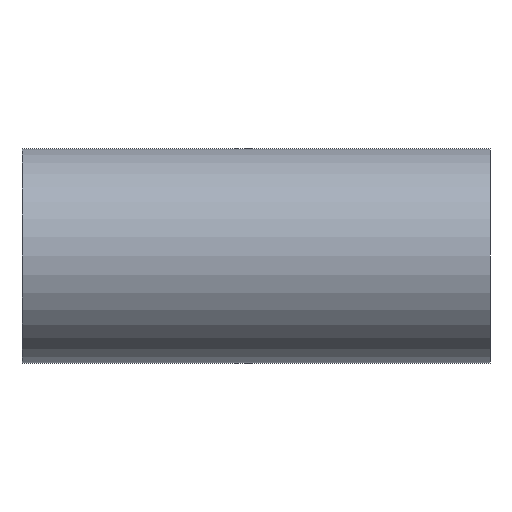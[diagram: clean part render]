
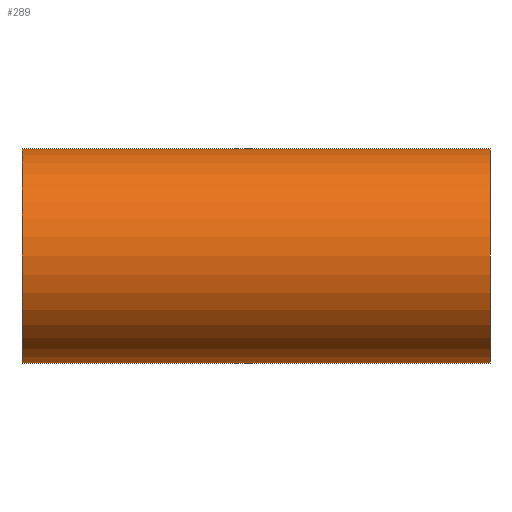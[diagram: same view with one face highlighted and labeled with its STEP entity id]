
A CAD part, front view. The second image highlights one B-rep face of the part: STEP entity #289.
In plain terms, the highlighted cylindrical face has radius 50.8 mm (diameter 101.6 mm), a partial arc.
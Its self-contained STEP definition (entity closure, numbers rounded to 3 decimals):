
#2 = VECTOR ( 'NONE', #214, 1000. ) ;
#43 = DIRECTION ( 'NONE',  ( -1., 0., 0. ) ) ;
#44 = LINE ( 'NONE', #511, #2 ) ;
#107 = LINE ( 'NONE', #123, #122 ) ;
#122 = VECTOR ( 'NONE', #162, 1000. ) ;
#123 = CARTESIAN_POINT ( 'NONE',  ( 254.384, 0., -50.8 ) ) ;
#129 = EDGE_CURVE ( 'NONE', #181, #177, #107, .T. ) ;
#162 = DIRECTION ( 'NONE',  ( -1., 0., 0. ) ) ;
#167 = EDGE_CURVE ( 'NONE', #513, #178, #44, .T. ) ;
#177 = VERTEX_POINT ( 'NONE', #204 ) ;
#178 = VERTEX_POINT ( 'NONE', #209 ) ;
#181 = VERTEX_POINT ( 'NONE', #330 ) ;
#184 = CARTESIAN_POINT ( 'NONE',  ( 254.384, 0., 0. ) ) ;
#193 = ORIENTED_EDGE ( 'NONE', *, *, #458, .T. ) ;
#204 = CARTESIAN_POINT ( 'NONE',  ( -110.7, 0., -50.8 ) ) ;
#209 = CARTESIAN_POINT ( 'NONE',  ( -110.7, 0., 50.8 ) ) ;
#210 = ORIENTED_EDGE ( 'NONE', *, *, #129, .F. ) ;
#214 = DIRECTION ( 'NONE',  ( -1., 0., 0. ) ) ;
#230 = AXIS2_PLACEMENT_3D ( 'NONE', #184, #43, #466 ) ;
#235 = ORIENTED_EDGE ( 'NONE', *, *, #167, .T. ) ;
#238 = AXIS2_PLACEMENT_3D ( 'NONE', #518, #370, #372 ) ;
#241 = CIRCLE ( 'NONE', #238, 50.8 ) ;
#246 = EDGE_CURVE ( 'NONE', #178, #177, #559, .T. ) ;
#257 = ORIENTED_EDGE ( 'NONE', *, *, #246, .T. ) ;
#281 = CARTESIAN_POINT ( 'NONE',  ( -110.7, 0., 0. ) ) ;
#289 = ADVANCED_FACE ( 'NONE', ( #504 ), #374, .T. ) ;
#326 = DIRECTION ( 'NONE',  ( 0., 0., 1. ) ) ;
#330 = CARTESIAN_POINT ( 'NONE',  ( 110.7, 0., -50.8 ) ) ;
#370 = DIRECTION ( 'NONE',  ( -1., 0., 0. ) ) ;
#372 = DIRECTION ( 'NONE',  ( 0., 0., 1. ) ) ;
#374 = CYLINDRICAL_SURFACE ( 'NONE', #230, 50.8 ) ;
#393 = EDGE_LOOP ( 'NONE', ( #210, #193, #235, #257 ) ) ;
#405 = DIRECTION ( 'NONE',  ( 1., 0., 0. ) ) ;
#458 = EDGE_CURVE ( 'NONE', #181, #513, #241, .T. ) ;
#465 = CARTESIAN_POINT ( 'NONE',  ( 110.7, 0., 50.8 ) ) ;
#466 = DIRECTION ( 'NONE',  ( 0., 0., 1. ) ) ;
#504 = FACE_OUTER_BOUND ( 'NONE', #393, .T. ) ;
#508 = AXIS2_PLACEMENT_3D ( 'NONE', #281, #405, #326 ) ;
#511 = CARTESIAN_POINT ( 'NONE',  ( 254.384, 0., 50.8 ) ) ;
#513 = VERTEX_POINT ( 'NONE', #465 ) ;
#518 = CARTESIAN_POINT ( 'NONE',  ( 110.7, 0., 0. ) ) ;
#559 = CIRCLE ( 'NONE', #508, 50.8 ) ;
